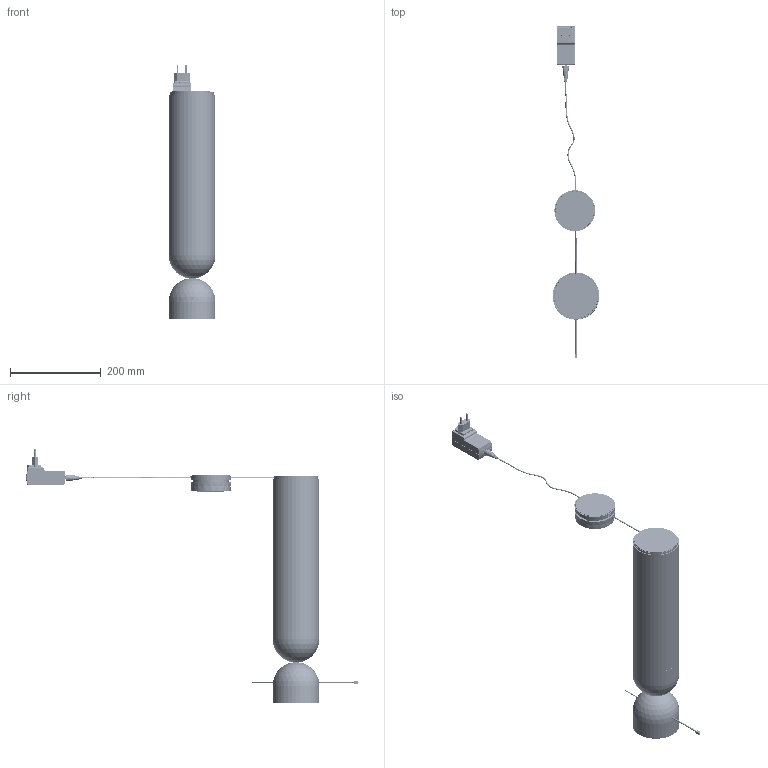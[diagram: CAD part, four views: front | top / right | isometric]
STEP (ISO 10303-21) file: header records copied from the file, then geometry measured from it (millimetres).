
FILE_DESCRIPTION(/* description */ ('Unknown'),/* implementation_level */ '2;1');
FILE_NAME(/* name */ 'DE6343-E01',/* time_stamp */ '2023-07-17T16:07:45+02:00',/* author */ ('Unknown'),/* organization */ ('Unknown'),/* preprocessor_version */ 'ST-DEVELOPER v18.1',/* originating_system */ 'Solid Edge',/* authorisation */ 'Unknown');
FILE_SCHEMA (('AUTOMOTIVE_DESIGN {1 0 10303 214 3 1 1}'));
Length unit declared in the file: millimetre
Products named in the file (50): DE6341-E01; copia_8991478_oa_0; 5642326; 5601256; copia_8991478_oa_1; 8991904_oa_2; 5615933; PULSADOR_PM2.0; 5750248 Cable Black 3Mts Vibia DC connect_cable doblado; 5750199-DRIVER 24V 18W UL 4PLUGS; 5750199 PLUG BLACK UT20-240075W; 5690030; 5690028; 5615372 SP87 Z D3x8 Tornillo para plástico; 5691342 espiga nylon M4x5; 5617516  d2,9x9,5 Din7982 Inox; 5690033; 5753317; 5690019; 5753706; 5692936; 5650974; 5760867; 5690021; 5690029; 5620295; 7641178.88_oa_3; 7641179.88; 5760799; LE-D100 OPAL; 8991508; 5642341; 5690450; 5752499; 5752499a; 5750456+2x5750457; 5750456 XAP-02V-1; 5750457 SXA-001T-P0.6; 5617520 din7991 M3x6 pavonado; 5752275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
Assembly tree (64 placements, depth 6):
  DE6341-E01
    copia_8991478_oa_0
      5642326
    5601256
    copia_8991478_oa_1
      5642326
    8991904_oa_2
      5615933
    PULSADOR_PM2.0
      5750248 Cable Black 3Mts Vibia DC connect_cable doblado
      5750199-DRIVER 24V 18W UL 4PLUGS
      5750199 PLUG BLACK UT20-240075W
      5690030
      5690028
      5615372 SP87 Z D3x8 Tornillo para plástico
      5691342 espiga nylon M4x5  x2
      5617516  d2,9x9,5 Din7982 Inox  x8
      5690033
      5753317
      5690019  x2
      5753706
      5692936
      5650974
      5760867
      5690021
      5690029
      5620295
    7641178.88_oa_3
      7641179.88
    5760799
    LE-D100 OPAL
      8991508
        5642341
        5690450
        5752499
          5752499a
          5750456+2x5750457
            5750456 XAP-02V-1
            5750457 SXA-001T-P0.6  x2
        5617520 din7991 M3x6 pavonado  x2
        5752275
      5616156_M3x6_DIN7985_cinc  x2
      5752479
      5690286
        5690287
        5650989  x3
        5690448
      5752595
      5642324
    8991905_oa_4
      5615912
Bounding box: 103 x 729.46 x 559.84 mm (x, y, z)
Volume: 888415.8 mm3; surface area: 640172.2 mm2
Topology: 163 solids, 169 shells, 13333 faces, 34440 edges, 20942 vertices
Faces by surface type: plane 5057, bspline 3116, cylinder 3053, sphere 774, cone 686, torus 647
Full cylindrical faces by diameter (mm): 0.1 x1, 0.26 x4, 0.6 x3, 1 x4, 1.1 x2, 1.3 x4, 1.6 x5, 1.9 x4, 2 x32, 2.2 x7, 2.25 x6, 2.3 x4, 2.459 x20, 2.5 x6, 2.61 x2, 2.7 x2, 2.8 x1, 3 x12, 3.2 x1, 3.242 x2, 3.3 x2, 3.351 x2, 3.376 x1, 3.5 x3, 3.6 x1, 3.8 x6, 4 x9, 4.01 x1, 4.2 x3, 4.333 x1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
Entity records: 545704 total; most frequent: CARTESIAN_POINT 207905, ORIENTED_EDGE 61570, DIRECTION 50402, EDGE_CURVE 30785, VERTEX_POINT 19414, AXIS2_PLACEMENT_3D 18566, FACE_BOUND 13625, EDGE_LOOP 13615
